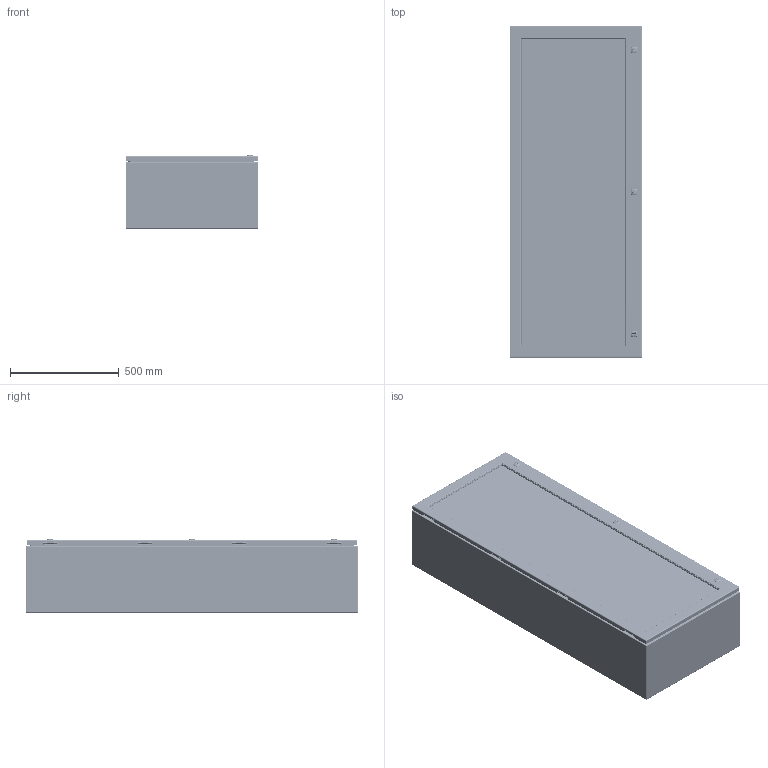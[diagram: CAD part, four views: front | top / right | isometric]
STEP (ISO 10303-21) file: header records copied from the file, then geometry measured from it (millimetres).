
FILE_DESCRIPTION(/* description */ ('5412ESW 60" x 24" x 12" Assembly'),/* implementation_level */ '2;1');
FILE_NAME(/* name */ 'C:\Vault_Workspace\Inventor_Dwg\BoxCad\Result\5412ESW602412\e-mail\3D\5412ESW602412.stp',/* time_stamp */ '2021-10-01T01:39:17-04:00',/* author */ ('BoxCad'),/* organization */ (''),/* preprocessor_version */ 'ST-DEVELOPER v18.1',/* originating_system */ 'Autodesk Inventor 2020',/* authorisation */ '');
FILE_SCHEMA (('AUTOMOTIVE_DESIGN { 1 0 10303 214 3 1 1 }'));
Products named in the file (74): 5412ESW602412; 5412ESW602412B; 5412ESW602412B-P; STK-Q-16005; STUD_M6 x 16mm; STK-S-00100; STK-Q-07610; 881SP6024G; 881SP6024G-P; STK-Q-07310; 5412ESW602412C; 5412ESW602412C-P; 5412ESW602412G; STK-K-09800; STK-K-09800-2; STK-K-09800-3; STK-K-09800-4; STK-Q-33014; STK-Q-90398; STK-Q-40095; STK-Q-63410; 5412ESW602412LX; 5412ESW602412LXG; 5412ESW602412_STK_G_02705; STK-Q-16052; 5412ESW602412_STK-A-60703; STK-Q-60703-2; STK-Q-60703-1; STK-Q-60703-3; STK-Q-60703-4; STK-Q-60702-A; STK-Q-60703-B; STK-Q-60703-C; STK-Q-60701; STK-Q-60701_1; STK-Q-60701_2; STK-Q-60701_3; STK-Q-60701_4; STK-Q-60701_5; STK-Q-60701_6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
Assembly tree (212 placements, depth 5):
  5412ESW602412
    5412ESW602412B
      5412ESW602412B-P
      STK-Q-16005  x6
      STK-P-02400S
      STUD_M6 x 16mm
      STK-S-00100
    STK-Q-07610  x6
    881SP6024G
      881SP6024G-P
    STK-Q-07310  x6
    5412ESW602412C
      5412ESW602412C-P
      5412ESW602412G
      STK-K-09800
        STK-Q-33014
        STK-Q-90398
        STK-Q-40095  x2
        STK-Q-63410  x2
      STK-K-09800-2
        STK-Q-33014
        STK-Q-90398
        STK-Q-40095  x2
        STK-Q-63410  x2
      STK-K-09800-3
        STK-Q-33014
        STK-Q-90398
        STK-Q-40095  x2
        STK-Q-63410  x2
      STK-K-09800-4
        STK-Q-33014
        STK-Q-90398
        STK-Q-40095  x2
        STK-Q-63410  x2
      5412ESW602412LX
      5412ESW602412LXG
      5412ESW602412_STK_G_02705
      STK-Q-16052  x22
      5412ESW602412_STK-A-60703
        STK-Q-60703-2
          STK-Q-60702-A
          STK-Q-60703-B
          STK-Q-60703-C
        STK-Q-60703-1
          STK-Q-60702-A
          STK-Q-60703-B
          STK-Q-60703-C
        STK-Q-60703-3
          STK-Q-60702-A
          STK-Q-60703-B
          STK-Q-60703-C
        STK-Q-60703-4
          STK-Q-60702-A
          STK-Q-60703-B
          STK-Q-60703-C
      STK-Q-60701
        STK-Q-60701-A
        STK-Q-60701-B
        STK-Q-60701-C
      STK-Q-60701_1
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Bounding box: 610.05 x 1524 x 337.57 mm (x, y, z)
Volume: 12599620.7 mm3; surface area: 9423896.9 mm2
Topology: 171 solids, 171 shells, 34621 faces, 93834 edges, 60269 vertices
Faces by surface type: bspline 12507, plane 11565, cylinder 8328, torus 1202, sphere 578, cone 441
Full cylindrical faces by diameter (mm): 0 x1, 0.75 x29, 0.762 x29, 1 x16, 1.1 x16, 3.2 x8, 4.4 x8, 4.5 x22, 4.521 x16, 4.75 x4, 4.85 x32, 4.95 x8, 5 x22, 5.1 x125, 5.156 x4, 5.6 x4, 5.9 x49, 6.65 x6, 6.85 x24, 6.894 x8, 7 x44, 7.3 x4, 7.366 x26, 7.9 x6, 8 x50, 8.382 x4, 9 x22, 9.5 x22, 9.6 x3, 9.906 x4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
Entity records: 206566 total; most frequent: CARTESIAN_POINT 81729, ORIENTED_EDGE 28164, DIRECTION 20981, EDGE_CURVE 14082, VERTEX_POINT 8954, AXIS2_PLACEMENT_3D 7279, LINE 6423, VECTOR 6423
